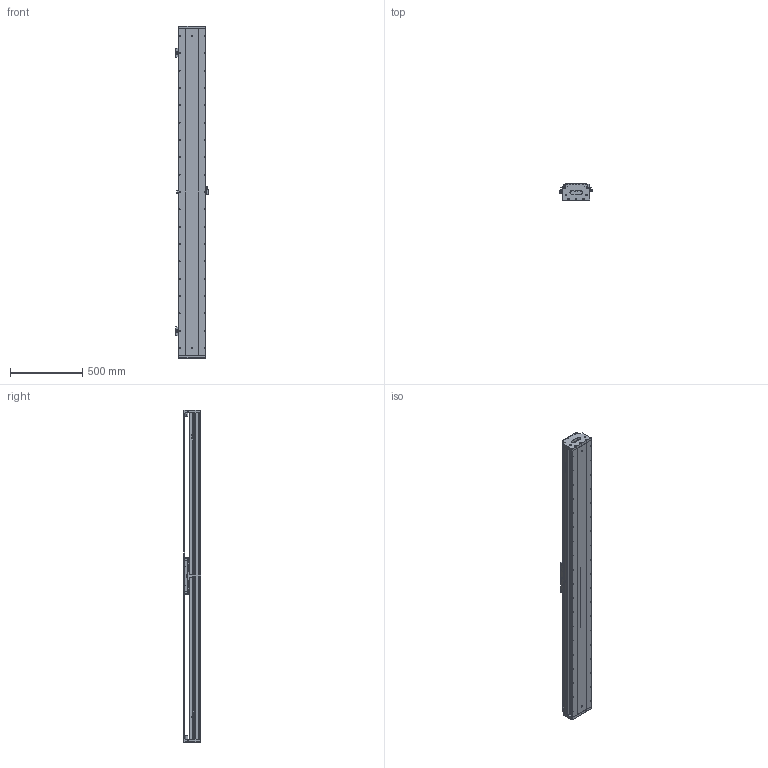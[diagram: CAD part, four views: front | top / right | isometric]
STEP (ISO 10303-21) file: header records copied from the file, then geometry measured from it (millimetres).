
FILE_DESCRIPTION (( 'STEP AP203' ), '1' );
FILE_NAME ('DKW188-C2-W090(T1920-L005-0.2).STEP', '2021-09-14T01:14:19', ( '微软用户' ), ( '微软中国' ), 'SwSTEP 2.0', 'SolidWorks 2018', '' );
FILE_SCHEMA (( 'CONFIG_CONTROL_DESIGN' ));
Length unit declared in the file: millimetre
Products named in the file (25): DKW168-RU-DTJ-00 RU2黍杅芛盓殤; 11899-0001-002-00 詩湍裔啣; CKMA01-W090-TRLxxx; RUS嫖掑喜; DKW188 单轴模组-拉钢带组件; 11500-0001-010-00 賑怢啣; Ru2; DKW168-HYB-00 賑輸揤啣; 11899-0001-003-00 傷啣; RUS嫖掑郪璃; pm-y65; DKW168-HXJ-00 遣喳砎蝶; CKM02-W090-C1C2-TP-3.0 珨极萇儂; 10980-0001-003-00 嫖萇羲壽嘐隅釱; 11899-0001-004-00 詩湍嶺輸; DKW188-C2-W090(T1920-L005-0.2); 嫖萇羲壽蚾饜极; 11899-0001-005-00 詩湍揤輸; 11899-0001-001-00 菁釱; 嫖萇羲壽蚾饜极A; 11899-0001-006-00 嶺輸菜輸; SSR25-DG; DKW-SG-GYP-H-00 嫖萇覜茼え; 砎蝶猾沭; SSR25XW1UUC1
Assembly tree (40 placements, depth 3):
  DKW188-C2-W090(T1920-L005-0.2)
    11899-0001-001-00 菁釱
    SSR25-DG  x2
    SSR25XW1UUC1  x4
    CKMA01-W090-TRLxxx
    11500-0001-010-00 賑怢啣
    DKW188 单轴模组-拉钢带组件
      11899-0001-003-00 傷啣  x2
      DKW168-HXJ-00 遣喳砎蝶  x4
      11899-0001-004-00 詩湍嶺輸  x2
      11899-0001-005-00 詩湍揤輸  x2
      11899-0001-006-00 嶺輸菜輸  x2
      砎蝶猾沭  x2
      11899-0001-002-00 詩湍裔啣
    DKW168-HYB-00 賑輸揤啣  x2
    嫖萇羲壽蚾饜极
      pm-y65  x2
      10980-0001-003-00 嫖萇羲壽嘐隅釱
    嫖萇羲壽蚾饜极A
      pm-y65
      10980-0001-003-00 嫖萇羲壽嘐隅釱
    DKW-SG-GYP-H-00 嫖萇覜茼え
    DKW168-RU-DTJ-00 RU2黍杅芛盓殤
    RUS嫖掑郪璃
      RUS嫖掑喜
      Ru2
    CKM02-W090-C1C2-TP-3.0 珨极萇儂
Bounding box: 222.1 x 120 x 2296 mm (x, y, z)
Volume: 17817736.4 mm3; surface area: 4669916.6 mm2
Topology: 39 solids, 88 shells, 4494 faces, 11657 edges, 7400 vertices
Faces by surface type: plane 2129, cylinder 1612, cone 478, bspline 275
Entity records: 117804 total; most frequent: CARTESIAN_POINT 39962, ORIENTED_EDGE 15443, DIRECTION 15050, EDGE_CURVE 7762, AXIS2_PLACEMENT_3D 5176, VERTEX_POINT 5073, LINE 4698, VECTOR 4698
